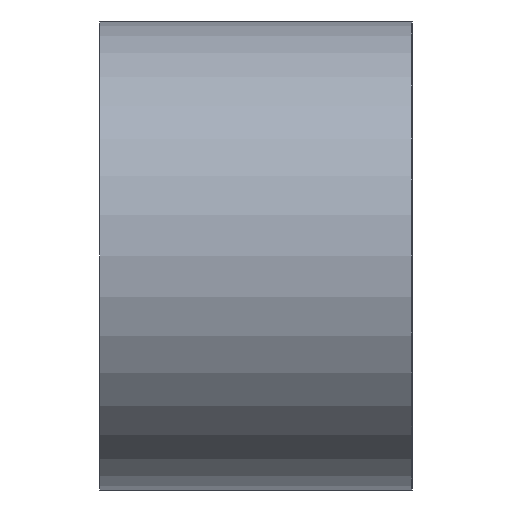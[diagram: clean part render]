
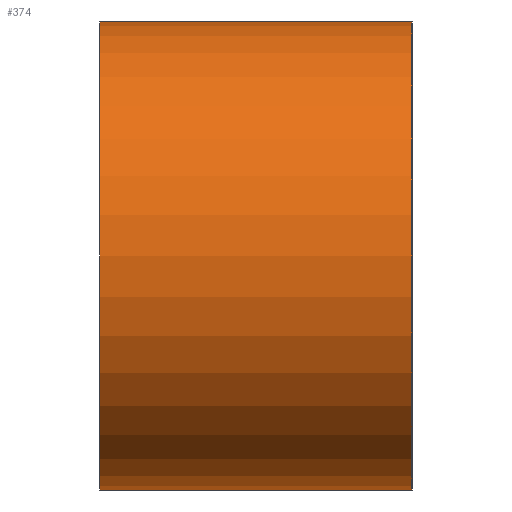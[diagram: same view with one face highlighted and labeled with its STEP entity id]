
A CAD part, left-side view. The second image highlights one B-rep face of the part: STEP entity #374.
In plain terms, the highlighted cylindrical face has radius 7.5 mm (diameter 15 mm), a partial arc.
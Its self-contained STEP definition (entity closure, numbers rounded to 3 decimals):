
#3 = CYLINDRICAL_SURFACE ( 'NONE', #283, 7.5 ) ;
#27 = CARTESIAN_POINT ( 'NONE',  ( 0., 10., 0. ) ) ;
#28 = VECTOR ( 'NONE', #304, 1000. ) ;
#37 = CARTESIAN_POINT ( 'NONE',  ( 0., 0., -7.5 ) ) ;
#71 = ORIENTED_EDGE ( 'NONE', *, *, #292, .T. ) ;
#106 = LINE ( 'NONE', #133, #28 ) ;
#130 = CARTESIAN_POINT ( 'NONE',  ( 0., 10., 0. ) ) ;
#133 = CARTESIAN_POINT ( 'NONE',  ( 0., 10., 7.5 ) ) ;
#136 = CARTESIAN_POINT ( 'NONE',  ( 0., 10., -7.5 ) ) ;
#156 = DIRECTION ( 'NONE',  ( 0., 1., 0. ) ) ;
#162 = EDGE_LOOP ( 'NONE', ( #71, #206, #263, #361 ) ) ;
#170 = DIRECTION ( 'NONE',  ( 0., 1., 0. ) ) ;
#192 = VERTEX_POINT ( 'NONE', #213 ) ;
#197 = CIRCLE ( 'NONE', #248, 7.5 ) ;
#199 = EDGE_CURVE ( 'NONE', #242, #240, #197, .T. ) ;
#206 = ORIENTED_EDGE ( 'NONE', *, *, #209, .F. ) ;
#209 = EDGE_CURVE ( 'NONE', #240, #192, #106, .T. ) ;
#213 = CARTESIAN_POINT ( 'NONE',  ( 0., 0., 7.5 ) ) ;
#229 = EDGE_CURVE ( 'NONE', #242, #295, #368, .T. ) ;
#232 = AXIS2_PLACEMENT_3D ( 'NONE', #260, #170, #334 ) ;
#240 = VERTEX_POINT ( 'NONE', #277 ) ;
#242 = VERTEX_POINT ( 'NONE', #136 ) ;
#248 = AXIS2_PLACEMENT_3D ( 'NONE', #27, #156, #356 ) ;
#250 = DIRECTION ( 'NONE',  ( 0., -1., 0. ) ) ;
#260 = CARTESIAN_POINT ( 'NONE',  ( 0., 0., 0. ) ) ;
#263 = ORIENTED_EDGE ( 'NONE', *, *, #199, .F. ) ;
#277 = CARTESIAN_POINT ( 'NONE',  ( 0., 10., 7.5 ) ) ;
#279 = FACE_OUTER_BOUND ( 'NONE', #162, .T. ) ;
#283 = AXIS2_PLACEMENT_3D ( 'NONE', #130, #250, #362 ) ;
#292 = EDGE_CURVE ( 'NONE', #295, #192, #301, .T. ) ;
#295 = VERTEX_POINT ( 'NONE', #37 ) ;
#301 = CIRCLE ( 'NONE', #232, 7.5 ) ;
#304 = DIRECTION ( 'NONE',  ( 0., -1., 0. ) ) ;
#306 = VECTOR ( 'NONE', #337, 1000. ) ;
#309 = CARTESIAN_POINT ( 'NONE',  ( 0., 10., -7.5 ) ) ;
#334 = DIRECTION ( 'NONE',  ( 0., 0., 1. ) ) ;
#337 = DIRECTION ( 'NONE',  ( 0., -1., 0. ) ) ;
#356 = DIRECTION ( 'NONE',  ( 0., 0., 1. ) ) ;
#361 = ORIENTED_EDGE ( 'NONE', *, *, #229, .T. ) ;
#362 = DIRECTION ( 'NONE',  ( 0., 0., -1. ) ) ;
#368 = LINE ( 'NONE', #309, #306 ) ;
#374 = ADVANCED_FACE ( 'NONE', ( #279 ), #3, .T. ) ;
